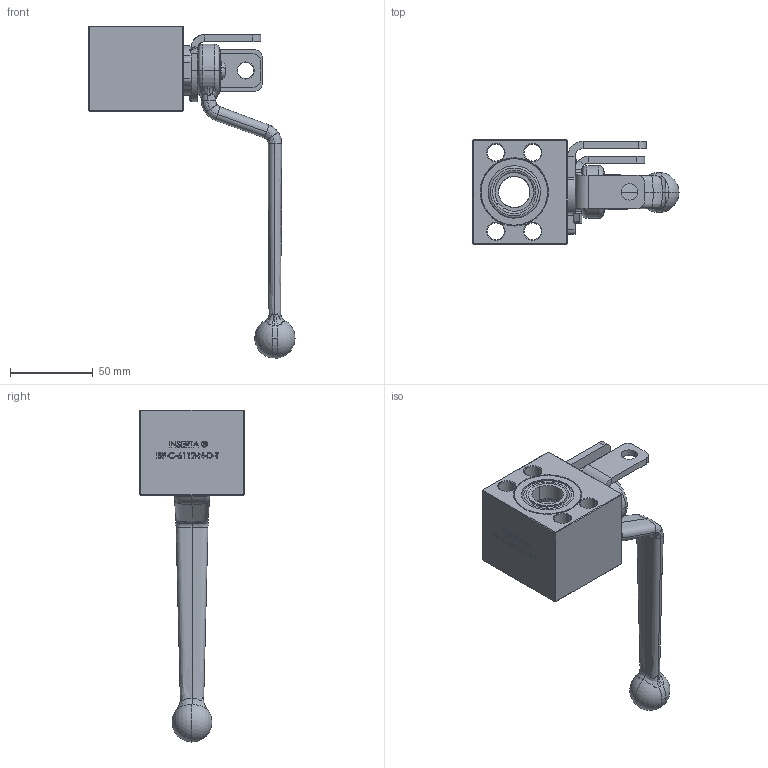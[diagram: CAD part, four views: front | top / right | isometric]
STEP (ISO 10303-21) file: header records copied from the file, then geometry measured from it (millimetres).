
FILE_DESCRIPTION (( 'STEP AP214' ), '1' );
FILE_NAME ('IBF-C-6112-NDT -Open.STEP', '2025-11-26T16:36:28', ( '' ), ( '' ), 'SwSTEP 2.0', 'SolidWorks 2023', '' );
FILE_SCHEMA (( 'AUTOMOTIVE_DESIGN' ));
Length unit declared in the file: inch
Products named in the file (1): IBF-C-6112-NDT -Open
Bounding box: 124.8 x 63.12 x 201.07 mm (x, y, z)
Volume: 206693.7 mm3; surface area: 70575.5 mm2
Topology: 4 solids, 4 shells, 1007 faces, 2658 edges, 1721 vertices
Faces by surface type: plane 493, bspline 190, cylinder 175, cone 65, torus 60, sphere 24
Entity records: 56164 total; most frequent: CARTESIAN_POINT 33037, ORIENTED_EDGE 5302, DIRECTION 3996, EDGE_CURVE 2651, VERTEX_POINT 1720, AXIS2_PLACEMENT_3D 1356, VECTOR 1284, LINE 1284
